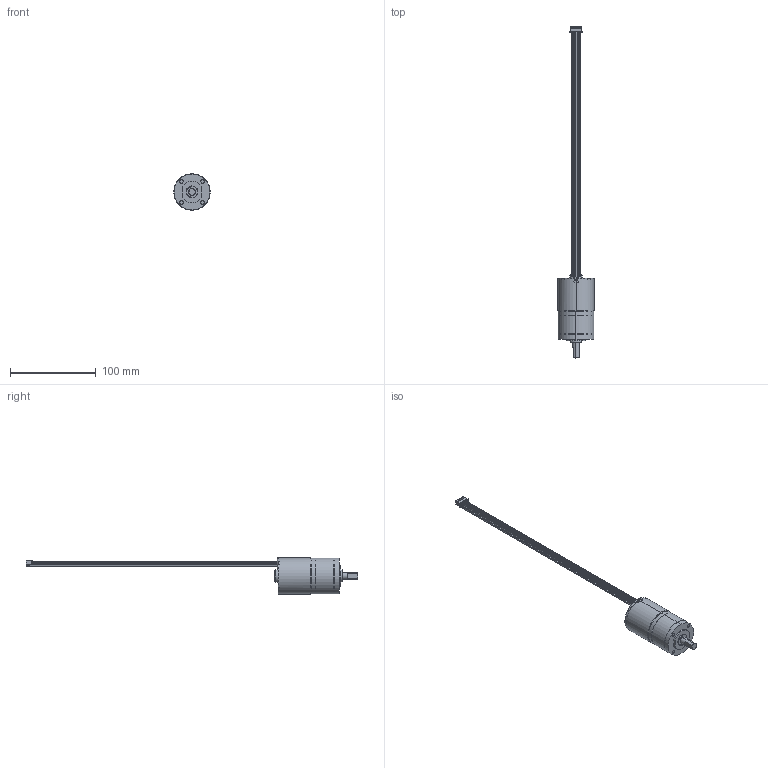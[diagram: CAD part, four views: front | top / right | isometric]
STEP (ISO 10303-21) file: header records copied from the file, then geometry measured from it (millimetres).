
FILE_DESCRIPTION((''),'2;1');
FILE_NAME('IG-42GM-61TYPE-1STAGE_ASM','2023-07-06T15:03:46',('M.C.Hsu'),(''),'CREO PARAMETRIC BY PTC INC, 2020414','CREO PARAMETRIC BY PTC INC, 2020414','');
FILE_SCHEMA(('CONFIG_CONTROL_DESIGN'));
Length unit declared in the file: millimetre
Products named in the file (19): IG420004-00_1; _STEP; BL42012102____F___20230202_STEP; 4239_D_B_STEP; BL42610101____U_M______STEP; XHP-5_STEP; NONE-1023; NONE-20557; NONE-21025; NONE-21677; NONE-39639; NONE-40025; NONE-40123; NONE-40886; UVW__W_L___STEP_ASM; _W_L___STEP_ASM; BL4239__STEP_1000_ASM; IG-42GM-61TYPE-1STAGE_1_ASM; IG-42GM-61TYPE-1STAGE_ASM
Assembly tree (18 placements, depth 6):
  IG-42GM-61TYPE-1STAGE_ASM
    IG-42GM-61TYPE-1STAGE_1_ASM
      IG420004-00_1
      BL4239__STEP_1000_ASM
        _STEP
        BL42012102____F___20230202_STEP
        4239_D_B_STEP
        BL42610101____U_M______STEP
        XHP-5_STEP
        _W_L___STEP_ASM
          UVW__W_L___STEP_ASM
            NONE-1023
            NONE-20557
            NONE-21025
            NONE-21677
            NONE-39639
            NONE-40025
            NONE-40123
            NONE-40886
Bounding box: 42.4 x 388.15 x 42.45 mm (x, y, z)
Volume: 60090.2 mm3; surface area: 39431.3 mm2
Topology: 14 solids, 14 shells, 384 faces, 906 edges, 594 vertices
Faces by surface type: plane 227, cylinder 121, torus 28, cone 8
Entity records: 11699 total; most frequent: DIRECTION 2130, CARTESIAN_POINT 2031, ORIENTED_EDGE 1812, EDGE_CURVE 906, AXIS2_PLACEMENT_3D 790, VERTEX_POINT 594, VECTOR 550, LINE 550
